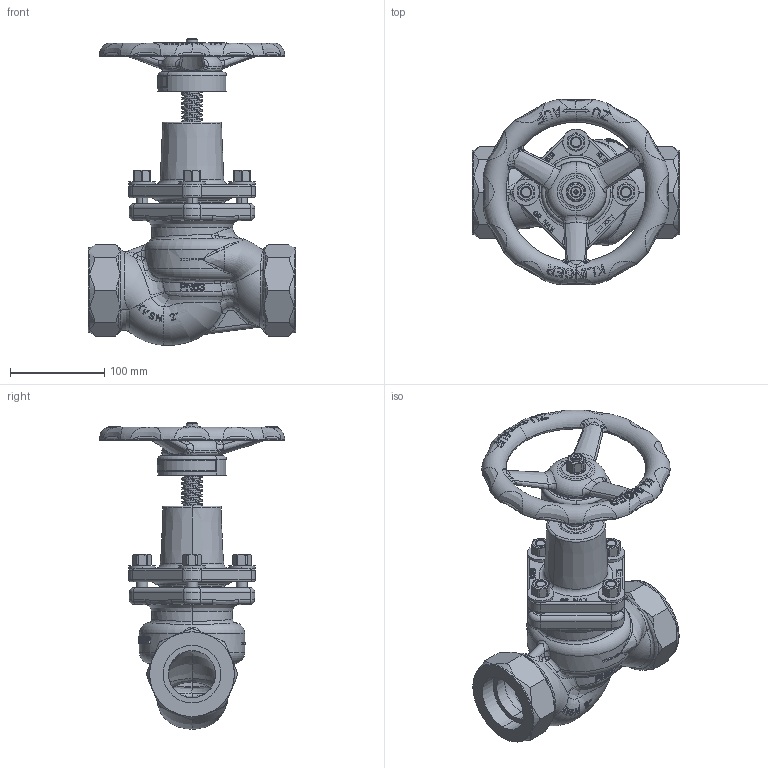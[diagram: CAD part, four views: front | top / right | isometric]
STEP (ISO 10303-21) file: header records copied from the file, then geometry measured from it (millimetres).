
FILE_DESCRIPTION((''),'2;1');
FILE_NAME('KVSN-S2-S-----P063PGG_SW0001','2018-12-12T11:47:05',('jeitlers'),('KLINGER'),'CREO PARAMETRIC BY PTC INC, 2018190','CREO PARAMETRIC BY PTC INC, 2018190','');
FILE_SCHEMA(('AUTOMOTIVE_DESIGN { 1 0 10303 214 1 1 1 1 }'));
Length unit declared in the file: millimetre
Products named in the file (1): KVSN-S2-S-----P063PGG_SW0001
Bounding box: 220 x 196.89 x 325.6 mm (x, y, z)
Volume: 1665537.5 mm3; surface area: 345367.1 mm2
Topology: 3 solids, 15 shells, 3109 faces, 8269 edges, 5266 vertices
Faces by surface type: plane 1816, bspline 522, cylinder 368, torus 255, cone 134, extrusion 12, sphere 2
Entity records: 205741 total; most frequent: CARTESIAN_POINT 134638, ORIENTED_EDGE 16528, DIRECTION 11892, EDGE_CURVE 8264, VERTEX_POINT 5266, AXIS2_PLACEMENT_3D 4145, VECTOR 3599, LINE 3587
